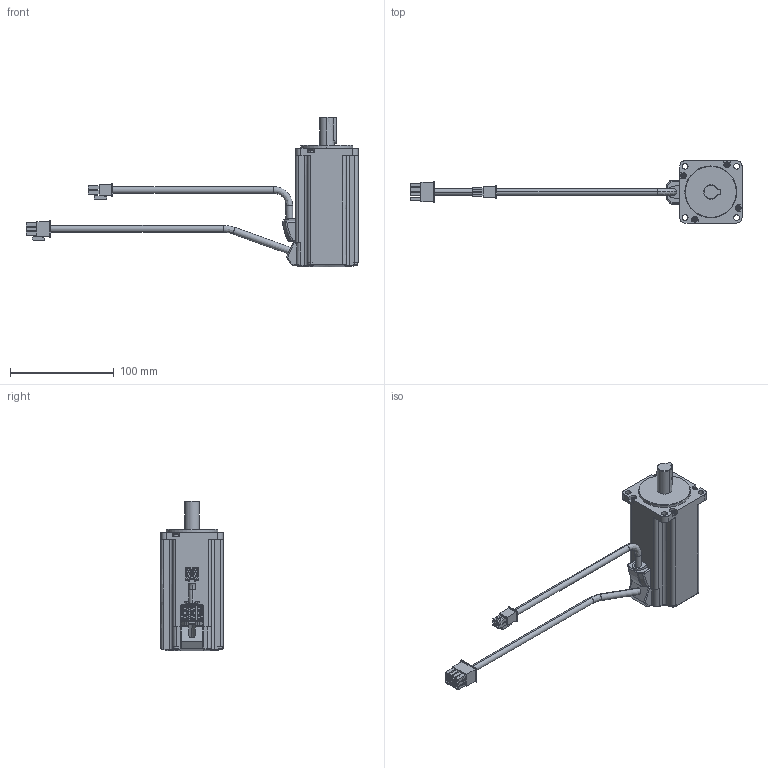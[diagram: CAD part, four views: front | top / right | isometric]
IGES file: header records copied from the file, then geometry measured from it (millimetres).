
Start section:  PTC IGES file: 10001008_rsmz-04ba_no_brake.igs
Global section: file name: 10001008_rsmz-04ba_no_brake.igs; native system: Pro/ENGINEER by Parametric Technology Corporation; preprocessor: 2004440; author: Administrator; organization: Unknown; date: 070829.201112; units: millimetre
Bounding box: 319.76 x 60 x 144 mm (x, y, z)
Volume: 388582.4 mm3; surface area: 51363.7 mm2
Topology: 1 solids, 1 shells, 489 faces, 1231 edges, 800 vertices
Faces by surface type: bspline 349, revolution 140
